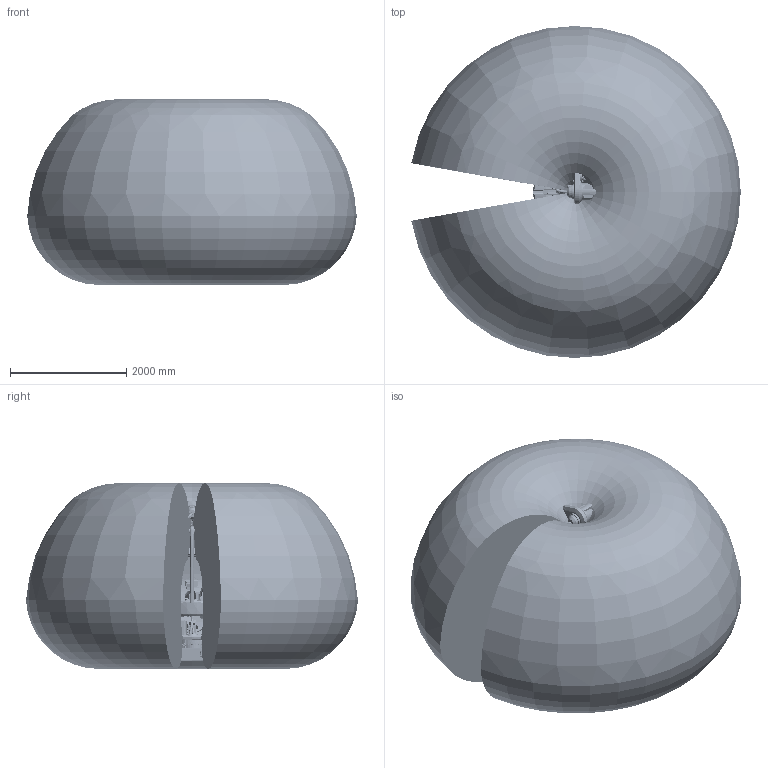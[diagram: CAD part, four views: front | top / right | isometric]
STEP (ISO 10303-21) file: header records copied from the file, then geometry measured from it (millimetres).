
FILE_DESCRIPTION (( 'STEP AP214' ), '1' );
FILE_NAME ('IRB7710-LID-MH_400kg-285_OC_01_ASM_CAD.step', '2026-01-28T09:31:02', ( '' ), ( '' ), 'SwSTEP 2.0', 'SolidWorks 2024', '' );
FILE_SCHEMA (( 'AUTOMOTIVE_DESIGN' ));
Length unit declared in the file: millimetre
Products named in the file (22): IRB77X0_All_OC_00_LINKBAR_CAD; IRB7710_All-285_OC_00_LINK04_CAD; IRB77X0_All_OC_00_LINK02m_CABLE; IRB7710-LID_All-285_OC_01_LINK04_CABLE; IRB7710_All_OC_00_LINKARM_CAD; IRB77X0_All_OC_00_LINK01m_CABLE; IRB77X0_All_OC_00_LINK01_CABLE; IRB7710_All-285_OC_00_Working-space; IRB7710_All-285_OC_00_LINK05_CABLE; IRB77X0_All_OC_00_CYL_CAD; IRB7710_All_OC_00_BASE_CAD; IRB77X0_All_OC_00_LINK02_CABLE; IRB7710-LID-MH_400kg-285_OC_01_ASM_CAD; IRB7710_All-285_OC_00_LINK05_CAD; IRB77X0_All_OC_00_ROD_CAD; IRB77X0-LID-MH_All_OC_01_LINK03a_CABLE; IRB7710_All-285_OC_00_LINK06_CABLE; IRB7710_All_OC_00_LINK03_CAD; IRB77X0_All_OC_00_LINK02_CAD; IRB7710_All_OC_00_LINK03m_CABLE; IRB77X0_All_OC_00_LINK03b_CABLE; IRB77X0_All_OC_00_LINK01_CAD
Assembly tree (21 placements, depth 2):
  IRB7710-LID-MH_400kg-285_OC_01_ASM_CAD
    IRB7710_All_OC_00_BASE_CAD
    IRB77X0_All_OC_00_LINK01_CAD
    IRB77X0_All_OC_00_LINK02_CAD
    IRB77X0_All_OC_00_CYL_CAD
    IRB77X0_All_OC_00_ROD_CAD
    IRB77X0_All_OC_00_LINKBAR_CAD
    IRB7710_All-285_OC_00_LINK04_CAD
    IRB7710_All_OC_00_LINK03_CAD
    IRB7710_All_OC_00_LINKARM_CAD
    IRB7710_All-285_OC_00_LINK05_CAD
    IRB77X0_All_OC_00_LINK01m_CABLE
    IRB77X0_All_OC_00_LINK02m_CABLE
    IRB7710_All_OC_00_LINK03m_CABLE
    IRB77X0_All_OC_00_LINK01_CABLE
    IRB77X0_All_OC_00_LINK02_CABLE
    IRB77X0_All_OC_00_LINK03b_CABLE
    IRB77X0-LID-MH_All_OC_01_LINK03a_CABLE
    IRB7710-LID_All-285_OC_01_LINK04_CABLE
    IRB7710_All-285_OC_00_LINK05_CABLE
    IRB7710_All-285_OC_00_LINK06_CABLE
    IRB7710_All-285_OC_00_Working-space
Bounding box: 5667.14 x 5710.52 x 3193.06 mm (x, y, z)
Volume: 55361943896.6 mm3; surface area: 121227150.4 mm2
Topology: 23 solids, 27 shells, 8624 faces, 21892 edges, 14178 vertices
Faces by surface type: plane 4385, cylinder 1769, cone 1144, bspline 987, torus 258, sphere 81
Full cylindrical faces by diameter (mm): 4.8 x8, 5 x15, 5.2 x4, 5.45 x1, 5.5 x4, 6 x16, 6.6 x4, 6.8 x30, 7 x4, 7.5 x8, 8 x8, 8.3 x2, 8.5 x15, 9.5 x4, 10 x12, 10.2 x24, 10.22 x2, 10.5 x3, 11 x6, 11.05 x2, 11.8 x2, 12 x30, 13 x4, 13.27 x48, 14 x28, 16 x5, 16.27 x18, 17 x8, 17.5 x10, 17.7 x3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
Entity records: 583421 total; most frequent: CARTESIAN_POINT 300279, ORIENTED_EDGE 39866, DIRECTION 35475, EDGE_CURVE 19933, VERTEX_POINT 13523, AXIS2_PLACEMENT_3D 13308, EDGE_LOOP 10968, FACE_OUTER_BOUND 9480
